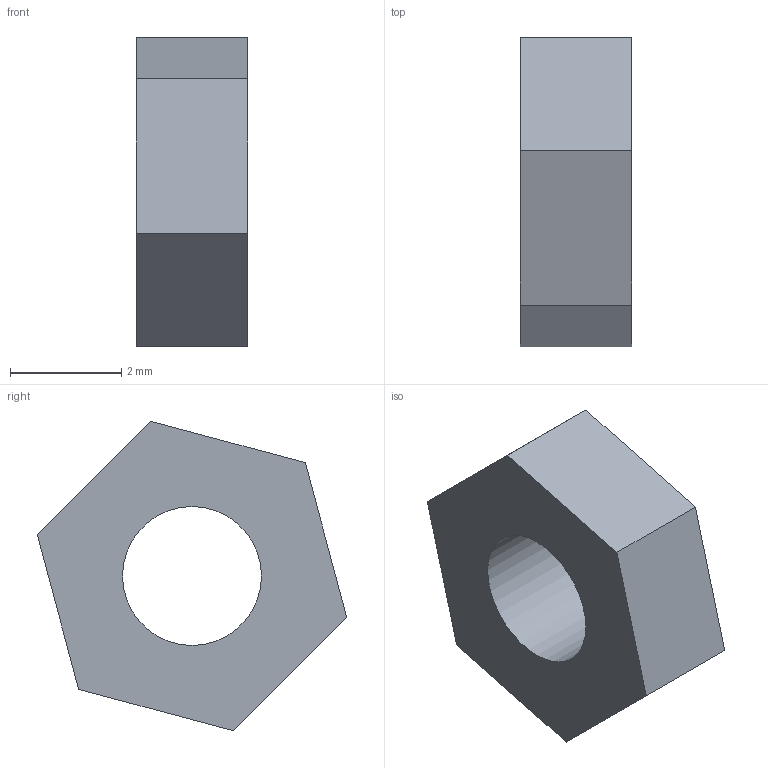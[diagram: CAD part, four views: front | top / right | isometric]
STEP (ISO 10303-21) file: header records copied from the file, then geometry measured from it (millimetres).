
FILE_DESCRIPTION(('Open CASCADE Model'),'2;1');
FILE_NAME('opposite-fsr-pcb-retaining-nut-m2p5.step', '2026-11-14T16:52:09',('Author'),('Open CASCADE'), 'Open CASCADE STEP processor 8.0','Open CASCADE 8.0','Unknown');
FILE_SCHEMA(('AP242_MANAGED_MODEL_BASED_3D_ENGINEERING_MIM_LF {1 0 10303 442 1 1 4 }' ));
Length unit declared in the file: millimetre
Products named in the file (1): Opposite FSR PCB Retaining Nut M2.5
Bounding box: 2 x 5.58 x 5.58 mm (x, y, z)
Volume: 33.5 mm3; surface area: 83.8 mm2
Topology: 1 solids, 1 shells, 9 faces, 21 edges, 14 vertices
Faces by surface type: plane 8, cylinder 1
Full cylindrical faces by diameter (mm): 2.502 x1
Entity records: 559 total; most frequent: CARTESIAN_POINT 99, DIRECTION 83, LINE 59, VECTOR 59, ORIENTED_EDGE 42, PCURVE 42, DEFINITIONAL_REPRESENTATION 42, EDGE_CURVE 21
